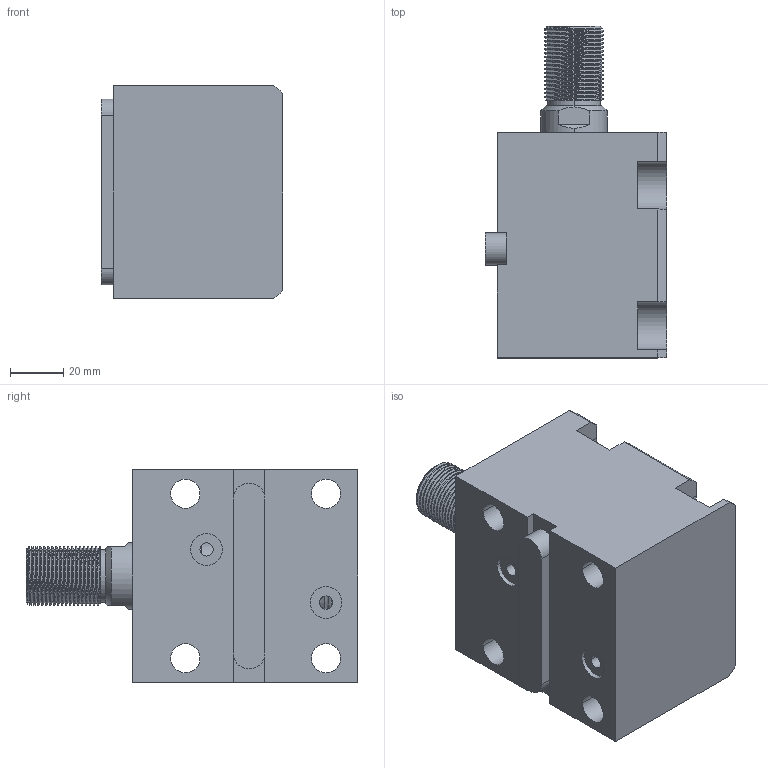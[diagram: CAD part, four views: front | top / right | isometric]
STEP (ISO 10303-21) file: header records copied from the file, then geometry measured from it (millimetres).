
FILE_DESCRIPTION (( 'STEP AP214' ), '1' );
FILE_NAME ('chtb-lam40x30w_asm.STEP', '2018-05-30T06:38:13', ( 'Windows' ), ( 'Microsoft' ), 'SwSTEP 2.0', 'SolidWorks 2015', '' );
FILE_SCHEMA (( 'AUTOMOTIVE_DESIGN' ));
Length unit declared in the file: millimetre
Products named in the file (5): CHTB-SD40X30WHSG; CHTB-SD40QG; CHTB-LAM40X30NBT; CHTB-LA40PJ; chtb-lam40x30w_asm
Assembly tree (4 placements, depth 2):
  chtb-lam40x30w_asm
    CHTB-LA40PJ
    CHTB-LAM40X30NBT
    CHTB-SD40QG
    CHTB-SD40X30WHSG
Bounding box: 68.5 x 125 x 80 mm (x, y, z)
Volume: 393396.9 mm3; surface area: 80898.5 mm2
Topology: 4 solids, 5 shells, 199 faces, 547 edges, 365 vertices
Faces by surface type: cylinder 111, plane 50, bspline 16, torus 12, cone 10
Entity records: 13609 total; most frequent: CARTESIAN_POINT 8674, ORIENTED_EDGE 1082, DIRECTION 894, EDGE_CURVE 541, VERTEX_POINT 365, AXIS2_PLACEMENT_3D 349, EDGE_LOOP 226, ADVANCED_FACE 199
